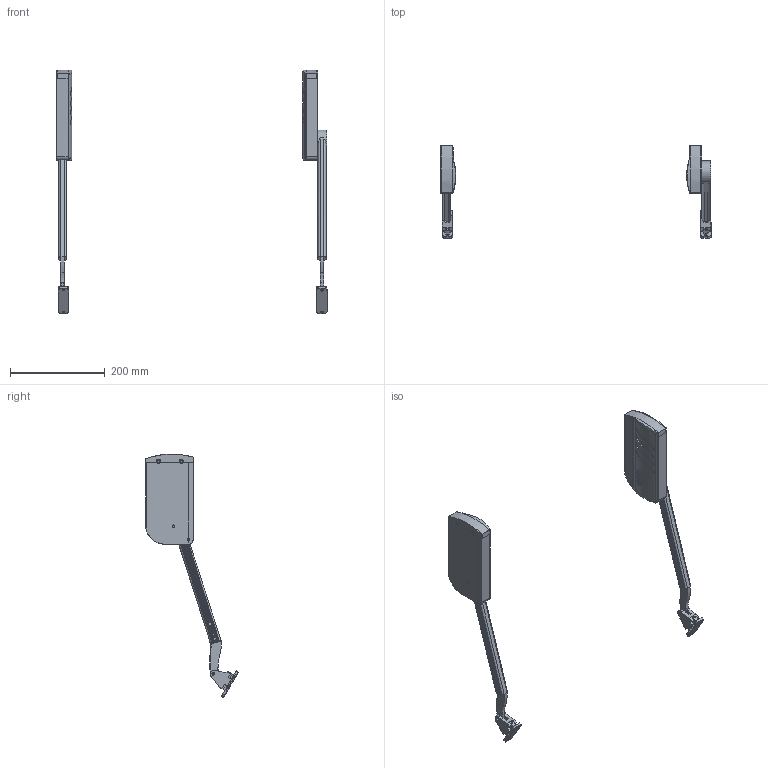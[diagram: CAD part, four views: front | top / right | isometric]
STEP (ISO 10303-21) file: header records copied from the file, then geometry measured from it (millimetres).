
FILE_DESCRIPTION(/* description */ (''),/* implementation_level */ '2;1');
FILE_NAME(/* name */ 'C:\Users\dmitruk\Documents\WORK\Подъемники\Подъемники\Подъемник HERMES\Подъем HERMES 600-700 открыто.stp',/* time_stamp */ '2022-08-04T16:59:59+03:00',/* author */ ('dmitruk'),/* organization */ (''),/* preprocessor_version */ 'ST-DEVELOPER v16.5',/* originating_system */ 'Autodesk Inventor 2017',/* authorisation */ '');
FILE_SCHEMA (('AUTOMOTIVE_DESIGN { 1 0 10303 214 3 1 1 }'));
Length unit declared in the file: millimetre
Products named in the file (8): Подъем HERMES 600-700 \X2\043E
0442043A0440044B0442043E\X0\; Крышка \X2\043F043E0434044A0435
043C043D0438043A0430\X0\; Механизм; Крепл; Механизм1; Рычаг 300; Крепл1; Крышка \X2\043F043E0434044A0435
043C043D0438043A0430\X0\ 1
Assembly tree (8 placements, depth 2):
  Подъем HERMES 600-700 \X2\043E
0442043A0440044B0442043E\X0\
    Крышка \X2\043F043E0434044A0435
043C043D0438043A0430\X0\
    Механизм
    Рычаг 300  x2
    Крепл
    Механизм1
    Крепл1
    Крышка \X2\043F043E0434044A0435
043C043D0438043A0430\X0\ 1
Bounding box: 570.84 x 195.54 x 514.45 mm (x, y, z)
Volume: 826982.8 mm3; surface area: 350150.3 mm2
Topology: 8 solids, 8 shells, 760 faces, 2164 edges, 1424 vertices
Faces by surface type: cylinder 374, plane 314, bspline 34, cone 22, torus 16
Full cylindrical faces by diameter (mm): 4 x2, 5 x14, 6 x4, 7 x8, 47.803 x2
Entity records: 24555 total; most frequent: CARTESIAN_POINT 7920, ORIENTED_EDGE 3618, DIRECTION 3203, EDGE_CURVE 1805, VERTEX_POINT 1200, AXIS2_PLACEMENT_3D 1130, LINE 943, VECTOR 943
